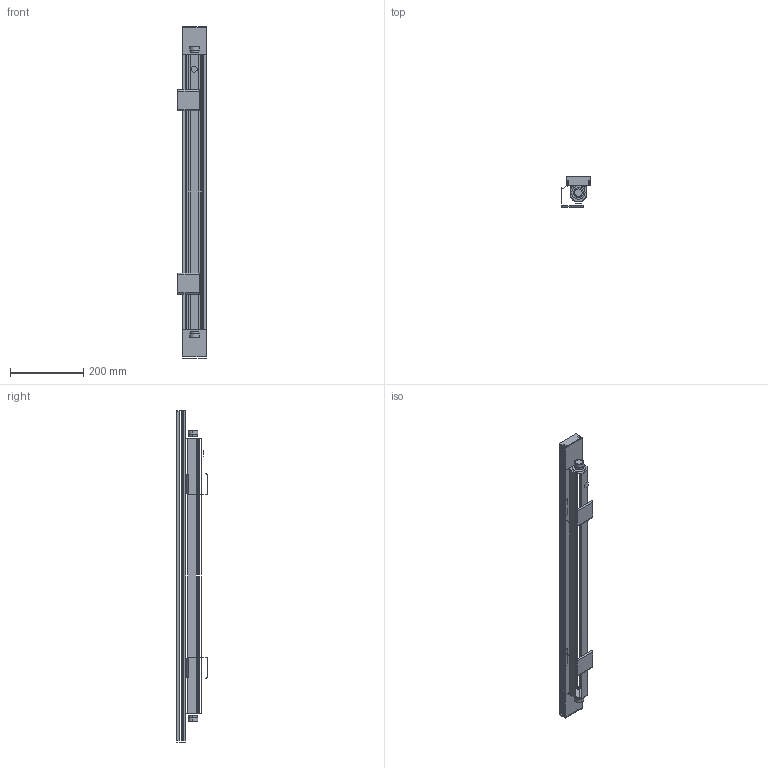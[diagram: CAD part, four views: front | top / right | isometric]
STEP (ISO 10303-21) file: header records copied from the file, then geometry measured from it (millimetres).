
FILE_DESCRIPTION((''),'2;1');
FILE_NAME('LYNEA_900_SW0002','2025-07-28T10:52:11',('Piccioli'),(''),'CREO PARAMETRIC BY PTC INC, 2025010','CREO PARAMETRIC BY PTC INC, 2025010','');
FILE_SCHEMA(('CONFIG_CONTROL_DESIGN'));
Length unit declared in the file: millimetre
Products named in the file (1): LYNEA_900_SW0002
Bounding box: 78.2 x 82.84 x 906 mm (x, y, z)
Surface area: 161575.1 mm2 (no closed solid volume)
Topology: 0 solids, 27 shells, 48 faces, 606 edges, 576 vertices
Faces by surface type: plane 29, cylinder 19
Entity records: 5602 total; most frequent: CARTESIAN_POINT 1230, DIRECTION 1032, ORIENTED_EDGE 646, EDGE_CURVE 606, VERTEX_POINT 576, AXIS2_PLACEMENT_3D 378, CIRCLE 330, VECTOR 276
